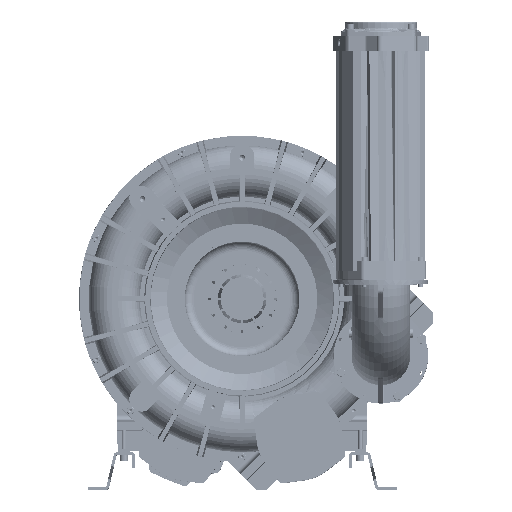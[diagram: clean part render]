
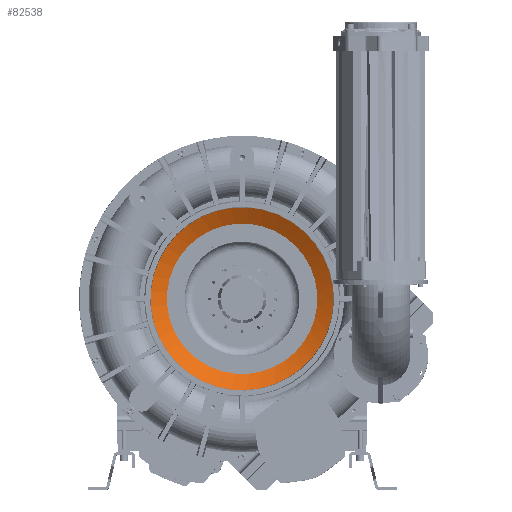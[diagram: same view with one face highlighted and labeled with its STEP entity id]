
A CAD part, top view. The second image highlights one B-rep face of the part: STEP entity #82538.
In plain terms, the highlighted conical face has half-angle 62 degrees and reference radius 131.023 mm.
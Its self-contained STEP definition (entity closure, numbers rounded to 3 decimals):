
#2879 = EDGE_LOOP ( 'NONE', ( #89160 ) ) ;
#15688 = CARTESIAN_POINT ( 'NONE',  ( 0., 0., 456. ) ) ;
#18648 = DIRECTION ( 'NONE',  ( 0., 0., 1. ) ) ;
#19528 = AXIS2_PLACEMENT_3D ( 'NONE', #315648, #290150, #210298 ) ;
#42511 = CARTESIAN_POINT ( 'NONE',  ( 0., 0., 456. ) ) ;
#65061 = AXIS2_PLACEMENT_3D ( 'NONE', #15688, #303167, #247115 ) ;
#82538 = ADVANCED_FACE ( 'NONE', ( #122874, #221658 ), #190169, .F. ) ;
#89160 = ORIENTED_EDGE ( 'NONE', *, *, #93385, .F. ) ;
#93385 = EDGE_CURVE ( 'NONE', #220189, #220189, #259799, .T. ) ;
#117232 = ORIENTED_EDGE ( 'NONE', *, *, #233946, .F. ) ;
#122874 = FACE_OUTER_BOUND ( 'NONE', #155732, .T. ) ;
#129787 = CARTESIAN_POINT ( 'NONE',  ( -112.584, -112.584, 470.991 ) ) ;
#155732 = EDGE_LOOP ( 'NONE', ( #117232 ) ) ;
#190169 = CONICAL_SURFACE ( 'NONE', #65061, 131.023, 1.082 ) ;
#210298 = DIRECTION ( 'NONE',  ( -0.707, -0.707, 0. ) ) ;
#220189 = VERTEX_POINT ( 'NONE', #323880 ) ;
#221658 = FACE_BOUND ( 'NONE', #2879, .T. ) ;
#233946 = EDGE_CURVE ( 'NONE', #310088, #310088, #291209, .T. ) ;
#247115 = DIRECTION ( 'NONE',  ( 0.707, 0.707, 0. ) ) ;
#255107 = DIRECTION ( 'NONE',  ( -0.707, -0.707, 0. ) ) ;
#259799 = CIRCLE ( 'NONE', #330514, 131.023 ) ;
#290150 = DIRECTION ( 'NONE',  ( 0., 0., -1. ) ) ;
#291209 = CIRCLE ( 'NONE', #19528, 159.217 ) ;
#303167 = DIRECTION ( 'NONE',  ( 0., 0., 1. ) ) ;
#310088 = VERTEX_POINT ( 'NONE', #129787 ) ;
#315648 = CARTESIAN_POINT ( 'NONE',  ( 0., 0., 470.991 ) ) ;
#323880 = CARTESIAN_POINT ( 'NONE',  ( -92.648, -92.648, 456. ) ) ;
#330514 = AXIS2_PLACEMENT_3D ( 'NONE', #42511, #18648, #255107 ) ;
